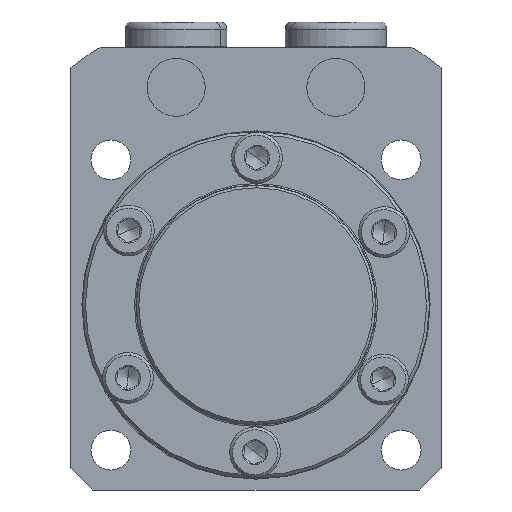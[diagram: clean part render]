
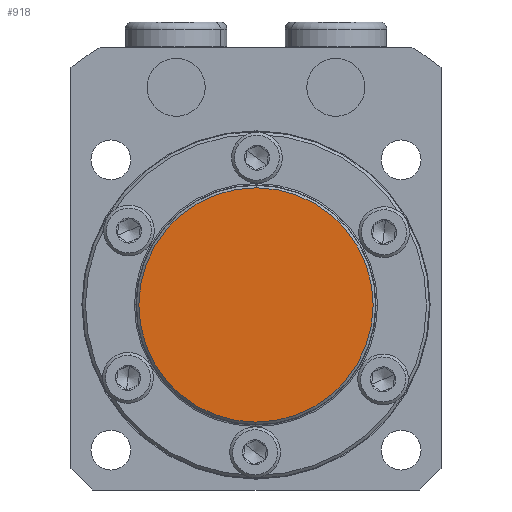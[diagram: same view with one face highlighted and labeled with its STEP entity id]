
A CAD part, front view. The second image highlights one B-rep face of the part: STEP entity #918.
In plain terms, the highlighted planar face has unit normal (0, -1, 0).
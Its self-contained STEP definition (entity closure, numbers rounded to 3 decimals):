
#22 = EDGE_CURVE ( 'NONE', #4857, #5502, #4508, .T. ) ;
#29 = CARTESIAN_POINT ( 'NONE',  ( 0., -8.5, 0. ) ) ;
#54 = DIRECTION ( 'NONE',  ( 0., -1., 0. ) ) ;
#237 = AXIS2_PLACEMENT_3D ( 'NONE', #2664, #54, #3094 ) ;
#366 = AXIS2_PLACEMENT_3D ( 'NONE', #970, #3989, #1410 ) ;
#918 = ADVANCED_FACE ( 'NONE', ( #5074 ), #4745, .T. ) ;
#970 = CARTESIAN_POINT ( 'NONE',  ( 0., -8.5, 0. ) ) ;
#1003 = EDGE_LOOP ( 'NONE', ( #3865, #3879 ) ) ;
#1410 = DIRECTION ( 'NONE',  ( 0., 0., -1. ) ) ;
#1413 = CARTESIAN_POINT ( 'NONE',  ( 0., -8.5, -16.15 ) ) ;
#1769 = DIRECTION ( 'NONE',  ( 0., 0., -1. ) ) ;
#2664 = CARTESIAN_POINT ( 'NONE',  ( 0., -8.5, 0. ) ) ;
#2734 = CARTESIAN_POINT ( 'NONE',  ( 0., -8.5, 16.15 ) ) ;
#3094 = DIRECTION ( 'NONE',  ( 0., 0., -1. ) ) ;
#3865 = ORIENTED_EDGE ( 'NONE', *, *, #4267, .T. ) ;
#3879 = ORIENTED_EDGE ( 'NONE', *, *, #22, .T. ) ;
#3989 = DIRECTION ( 'NONE',  ( 0., -1., 0. ) ) ;
#4267 = EDGE_CURVE ( 'NONE', #5502, #4857, #4341, .T. ) ;
#4332 = DIRECTION ( 'NONE',  ( 0., -1., 0. ) ) ;
#4333 = AXIS2_PLACEMENT_3D ( 'NONE', #29, #4332, #1769 ) ;
#4341 = CIRCLE ( 'NONE', #366, 16.15 ) ;
#4508 = CIRCLE ( 'NONE', #237, 16.15 ) ;
#4745 = PLANE ( 'NONE',  #4333 ) ;
#4857 = VERTEX_POINT ( 'NONE', #1413 ) ;
#5074 = FACE_OUTER_BOUND ( 'NONE', #1003, .T. ) ;
#5502 = VERTEX_POINT ( 'NONE', #2734 ) ;
